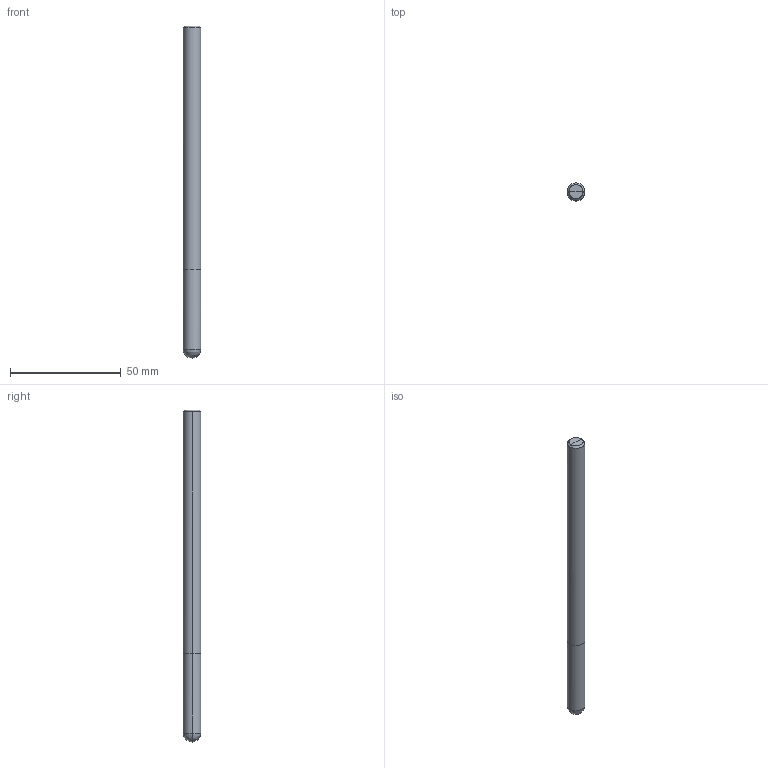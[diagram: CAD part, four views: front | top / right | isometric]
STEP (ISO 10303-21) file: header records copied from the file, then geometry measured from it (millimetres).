
FILE_DESCRIPTION(/* description */ (''),/* implementation_level */ '2;1');
FILE_NAME(/*name*/ '2122-8',/*time_stamp*/'2021-6-28T14:3:36',/*author*/ ('ISBE GmbH'),/*organization*/ ('ISBE GmbH'),/*preprocessor_version*/ 'STEP IO v1.0',/*originating_system*/ '',/*authorisation*/ '');
FILE_SCHEMA (('AUTOMOTIVE_DESIGN'));
Length unit declared in the file: millimetre
Products named in the file (1): Document
Bounding box: 8 x 7.99 x 150 mm (x, y, z)
Surface area: 3913.6 mm2 (no closed solid volume)
Topology: 0 solids, 14 shells, 14 faces, 58 edges, 52 vertices
Faces by surface type: bspline 14
Entity records: 1137 total; most frequent: CARTESIAN_POINT 872, VERTEX_POINT 48, EDGE_CURVE 48, ORIENTED_EDGE 48, DIRECTION 16, EDGE_LOOP 14, FACE_OUTER_BOUND 14, ADVANCED_FACE 14
